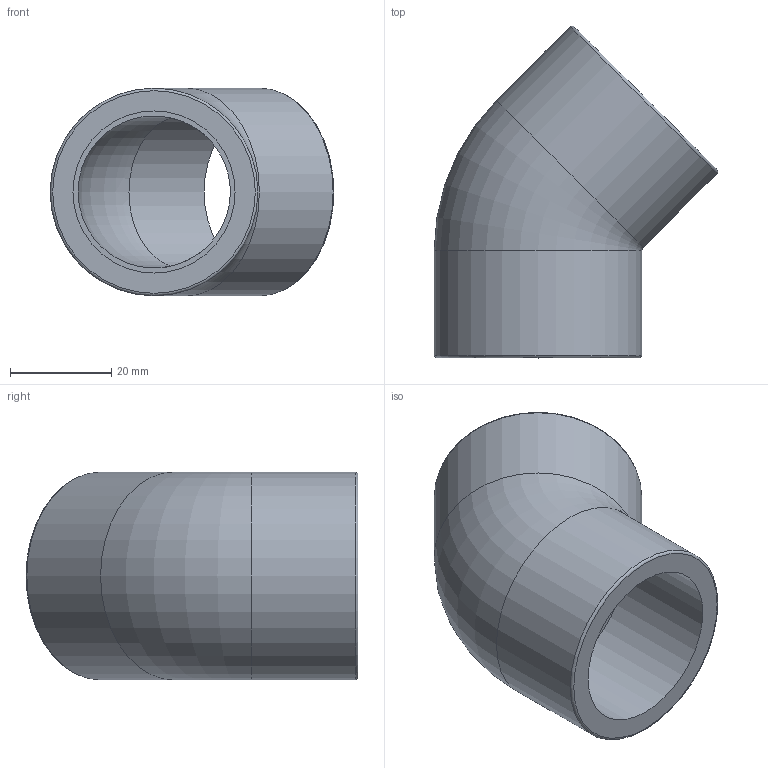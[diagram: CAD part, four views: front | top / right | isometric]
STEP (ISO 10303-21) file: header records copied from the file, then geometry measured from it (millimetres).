
FILE_DESCRIPTION(/* description */ ('PVC gomito a 45° incollaggio metrico'),/* implementation_level */ '2;1');
FILE_NAME(/* name */ 'C:\Users\POLYPIPE\Desktop\DATASET INVENTOR\LIBRERIA EFFAST\RACCORDI 3DxWEB\RDR\3D_RDRGYD\3D_RDRGYD0320.stp',/* time_stamp */ '2018-01-19T14:34:00+01:00',/* author */ ('POLYPIPE'),/* organization */ ('Polypipe Italia s.r.l.'),/* preprocessor_version */ 'ST-DEVELOPER v16.1',/* originating_system */ 'Autodesk Inventor 2016',/* authorisation */ '');
FILE_SCHEMA (('CONFIG_CONTROL_DESIGN'));
Length unit declared in the file: millimetre
Products named in the file (1): 3D_RDRGYD
Bounding box: 56 x 65.5 x 41 mm (x, y, z)
Volume: 31938.8 mm3; surface area: 14624.5 mm2
Topology: 1 solids, 1 shells, 12 faces, 20 edges, 12 vertices
Faces by surface type: torus 4, cylinder 4, plane 4
Full cylindrical faces by diameter (mm): 32 x2, 41 x2
Entity records: 396 total; most frequent: CARTESIAN_POINT 167, DIRECTION 46, EDGE_LOOP 24, ORIENTED_EDGE 24, AXIS2_PLACEMENT_3D 23, FACE_BOUND 12, FACE_OUTER_BOUND 12, VERTEX_POINT 12
